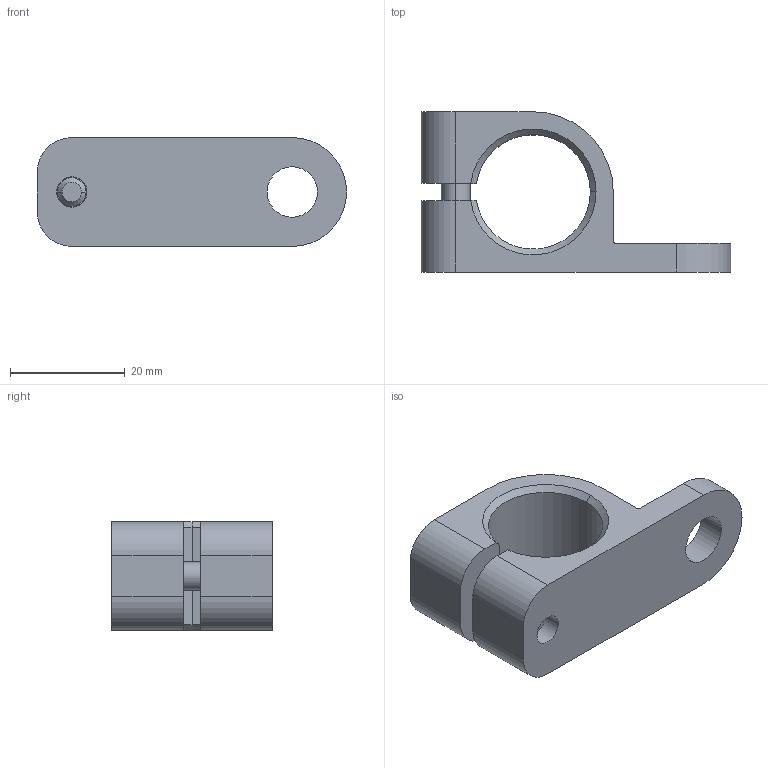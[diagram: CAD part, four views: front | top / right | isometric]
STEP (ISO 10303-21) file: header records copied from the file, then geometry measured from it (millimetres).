
FILE_DESCRIPTION (( 'STEP AP214' ), '1' );
FILE_NAME ('SCC-20G18T.STEP', '2023-01-12T02:00:42', ( 'Windows User' ), ( 'P R C' ), 'SwSTEP 2.0', 'SolidWorks 2019', '' );
FILE_SCHEMA (( 'AUTOMOTIVE_DESIGN' ));
Length unit declared in the file: millimetre
Products named in the file (1): SCC-20G18T
Bounding box: 54 x 28 x 19 mm (x, y, z)
Volume: 11349.4 mm3; surface area: 6495.1 mm2
Topology: 3 solids, 3 shells, 247 faces, 709 edges, 469 vertices
Faces by surface type: plane 213, cylinder 25, cone 7, bspline 2
Entity records: 11045 total; most frequent: CARTESIAN_POINT 1573, DIRECTION 1438, ORIENTED_EDGE 1418, EDGE_CURVE 709, AXIS2_PLACEMENT_3D 491, VERTEX_POINT 469, LINE 456, VECTOR 456
